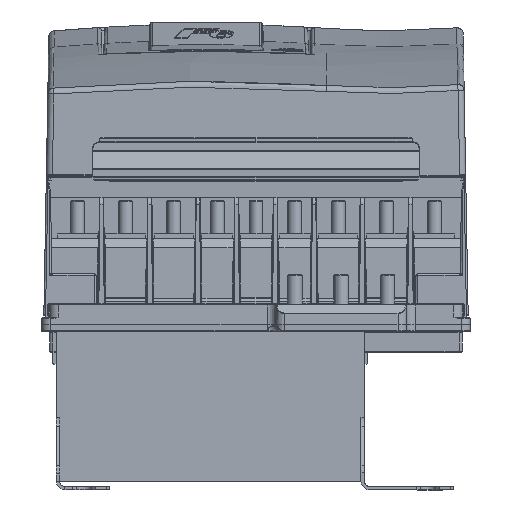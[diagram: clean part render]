
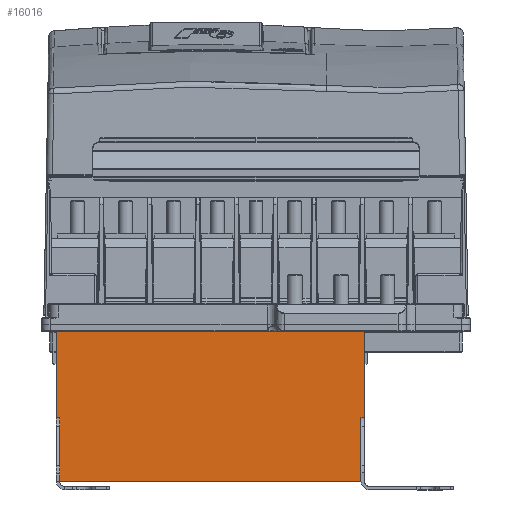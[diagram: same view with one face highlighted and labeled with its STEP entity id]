
A CAD part, front view. The second image highlights one B-rep face of the part: STEP entity #16016.
In plain terms, the highlighted planar face has unit normal (0, -1, 0).
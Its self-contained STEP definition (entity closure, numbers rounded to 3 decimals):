
#686 = VECTOR ( 'NONE', #17027, 1000. ) ;
#2471 = EDGE_CURVE ( 'NONE', #34847, #32381, #22572, .T. ) ;
#3105 = VECTOR ( 'NONE', #64186, 1000. ) ;
#3290 = CARTESIAN_POINT ( 'NONE',  ( -89.5, -63., 28. ) ) ;
#6282 = CARTESIAN_POINT ( 'NONE',  ( 87.5, -63., -22. ) ) ;
#10496 = VECTOR ( 'NONE', #14783, 1000. ) ;
#13592 = DIRECTION ( 'NONE',  ( 0., 0., 1. ) ) ;
#14783 = DIRECTION ( 'NONE',  ( 1., 0., 0. ) ) ;
#16016 = ADVANCED_FACE ( 'NONE', ( #98015 ), #29064, .F. ) ;
#17027 = DIRECTION ( 'NONE',  ( 1., 0., 0. ) ) ;
#17060 = EDGE_CURVE ( 'NONE', #34847, #75081, #68538, .T. ) ;
#17330 = EDGE_CURVE ( 'NONE', #33175, #75081, #60372, .T. ) ;
#21051 = VECTOR ( 'NONE', #21849, 1000. ) ;
#21849 = DIRECTION ( 'NONE',  ( 0., 0., -1. ) ) ;
#22572 = LINE ( 'NONE', #38529, #23980 ) ;
#22953 = DIRECTION ( 'NONE',  ( 0., 0., 1. ) ) ;
#23547 = DIRECTION ( 'NONE',  ( -1., 0., 0. ) ) ;
#23702 = EDGE_CURVE ( 'NONE', #95547, #33175, #47972, .T. ) ;
#23980 = VECTOR ( 'NONE', #13592, 1000. ) ;
#24099 = CARTESIAN_POINT ( 'NONE',  ( 87.5, -63., -59. ) ) ;
#27203 = EDGE_CURVE ( 'NONE', #49119, #71820, #30758, .T. ) ;
#28356 = CARTESIAN_POINT ( 'NONE',  ( -87.5, -63., -36. ) ) ;
#29064 = PLANE ( 'NONE',  #92981 ) ;
#29199 = ORIENTED_EDGE ( 'NONE', *, *, #80106, .T. ) ;
#29357 = VECTOR ( 'NONE', #22953, 1000. ) ;
#30758 = LINE ( 'NONE', #67241, #10496 ) ;
#32381 = VERTEX_POINT ( 'NONE', #54028 ) ;
#33019 = CARTESIAN_POINT ( 'NONE',  ( -89.5, -63., -59. ) ) ;
#33175 = VERTEX_POINT ( 'NONE', #24099 ) ;
#34847 = VERTEX_POINT ( 'NONE', #97626 ) ;
#37759 = CARTESIAN_POINT ( 'NONE',  ( -89.5, -63., -59. ) ) ;
#38529 = CARTESIAN_POINT ( 'NONE',  ( 89.5, -63., -59. ) ) ;
#38532 = CARTESIAN_POINT ( 'NONE',  ( 0., -63., -22. ) ) ;
#41201 = ORIENTED_EDGE ( 'NONE', *, *, #52747, .T. ) ;
#45250 = LINE ( 'NONE', #37759, #77132 ) ;
#47769 = ORIENTED_EDGE ( 'NONE', *, *, #2471, .T. ) ;
#47972 = LINE ( 'NONE', #33019, #686 ) ;
#49119 = VERTEX_POINT ( 'NONE', #49483 ) ;
#49483 = CARTESIAN_POINT ( 'NONE',  ( -89.5, -63., -22. ) ) ;
#52747 = EDGE_CURVE ( 'NONE', #71820, #95547, #97784, .T. ) ;
#54028 = CARTESIAN_POINT ( 'NONE',  ( 89.5, -63., 28. ) ) ;
#60034 = EDGE_LOOP ( 'NONE', ( #79231, #60851, #95549, #47769, #29199, #88416, #98314, #41201 ) ) ;
#60372 = LINE ( 'NONE', #66918, #29357 ) ;
#60851 = ORIENTED_EDGE ( 'NONE', *, *, #17330, .T. ) ;
#61476 = CARTESIAN_POINT ( 'NONE',  ( 0., -63., 0. ) ) ;
#61773 = CARTESIAN_POINT ( 'NONE',  ( -87.5, -63., -59. ) ) ;
#64186 = DIRECTION ( 'NONE',  ( -1., 0., 0. ) ) ;
#65969 = VERTEX_POINT ( 'NONE', #75881 ) ;
#66918 = CARTESIAN_POINT ( 'NONE',  ( 87.5, -63., 0. ) ) ;
#67241 = CARTESIAN_POINT ( 'NONE',  ( -89.5, -63., -22. ) ) ;
#68229 = DIRECTION ( 'NONE',  ( 0., 0., -1. ) ) ;
#68538 = LINE ( 'NONE', #38532, #97899 ) ;
#71706 = LINE ( 'NONE', #3290, #3105 ) ;
#71820 = VERTEX_POINT ( 'NONE', #75143 ) ;
#75081 = VERTEX_POINT ( 'NONE', #6282 ) ;
#75143 = CARTESIAN_POINT ( 'NONE',  ( -87.5, -63., -22. ) ) ;
#75157 = EDGE_CURVE ( 'NONE', #65969, #49119, #45250, .T. ) ;
#75881 = CARTESIAN_POINT ( 'NONE',  ( -89.5, -63., 28. ) ) ;
#77132 = VECTOR ( 'NONE', #68229, 1000. ) ;
#79231 = ORIENTED_EDGE ( 'NONE', *, *, #23702, .T. ) ;
#80106 = EDGE_CURVE ( 'NONE', #32381, #65969, #71706, .T. ) ;
#88416 = ORIENTED_EDGE ( 'NONE', *, *, #75157, .T. ) ;
#90016 = DIRECTION ( 'NONE',  ( 0., 0., 1. ) ) ;
#92000 = DIRECTION ( 'NONE',  ( 0., 1., 0. ) ) ;
#92981 = AXIS2_PLACEMENT_3D ( 'NONE', #61476, #92000, #90016 ) ;
#95547 = VERTEX_POINT ( 'NONE', #61773 ) ;
#95549 = ORIENTED_EDGE ( 'NONE', *, *, #17060, .F. ) ;
#97626 = CARTESIAN_POINT ( 'NONE',  ( 89.5, -63., -22. ) ) ;
#97784 = LINE ( 'NONE', #28356, #21051 ) ;
#97899 = VECTOR ( 'NONE', #23547, 1000. ) ;
#98015 = FACE_OUTER_BOUND ( 'NONE', #60034, .T. ) ;
#98314 = ORIENTED_EDGE ( 'NONE', *, *, #27203, .T. ) ;
